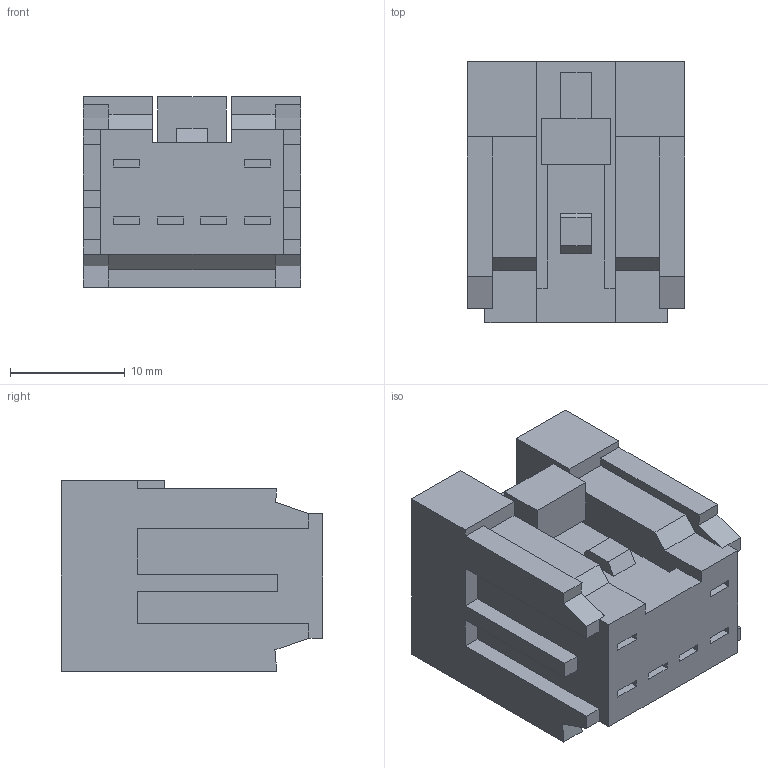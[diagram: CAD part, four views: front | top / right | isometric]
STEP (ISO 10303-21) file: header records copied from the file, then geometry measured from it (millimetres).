
FILE_DESCRIPTION(('CATIA V5 STEP','CAx-IF Rec.Pracs.--- Model Styling and Organization---1.4--- 2014-01-23'),'2;1');
FILE_NAME('\\fss02.ad.sws.co.jp\fs100016\第3設計部\共有\コネクタ第1Gr\【91】一時保管\★カタログ用参考資料\簡易３D\stp_送付用\6098-6948.stp','2024-10-07T01:14:14+00:00',('none'),('none'),'CATIA Version 5-6 Release 2018 SP4 HF21','CATIA V5 STEP AP214','none');
FILE_SCHEMA(('AUTOMOTIVE_DESIGN { 1 0 10303 214 1 1 1 1 }'));
Length unit declared in the file: millimetre
Products named in the file (1): 6098-6948
Bounding box: 19 x 22.8 x 16.6 mm (x, y, z)
Volume: 5119.3 mm3; surface area: 3053 mm2
Topology: 1 solids, 1 shells, 149 faces, 399 edges, 264 vertices
Faces by surface type: plane 149
Entity records: 4211 total; most frequent: ORIENTED_EDGE 798, CARTESIAN_POINT 741, DIRECTION 553, VECTOR 399, EDGE_CURVE 399, LINE 399, VERTEX_POINT 264, EDGE_LOOP 163
